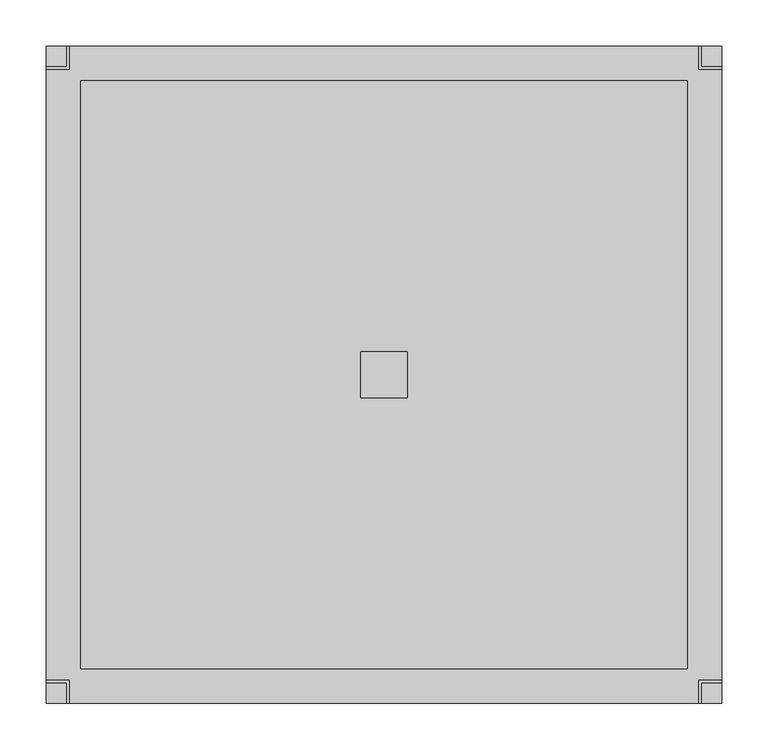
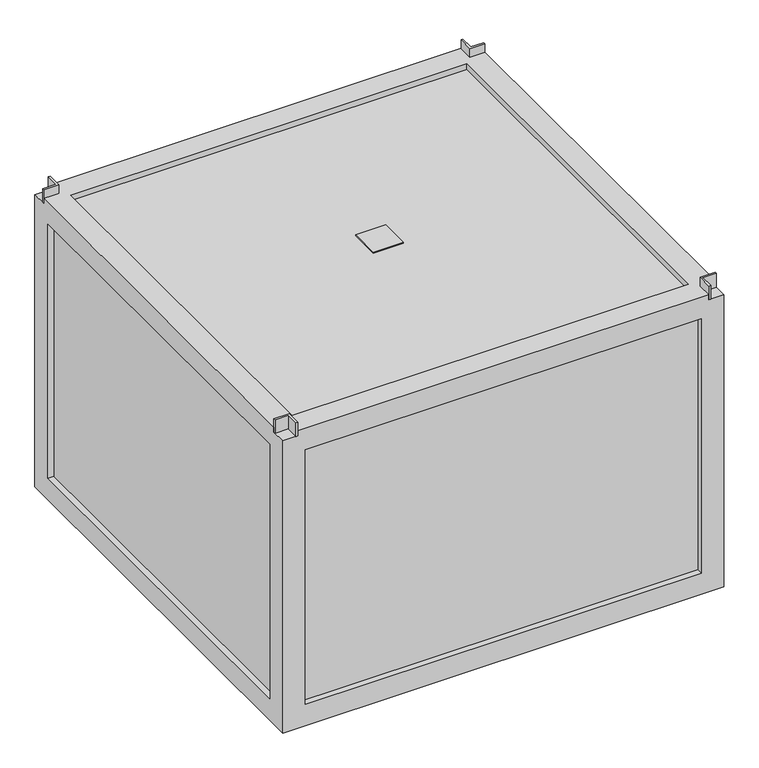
"""IFC4 building model written with IfcOpenShell, lengths in millimetres: proxy geometry, KORF_Вентилятор_UTR_WRH : UTR 50-30 WRH 28.4D (М)."""

from ifc_helpers import new_model, si_unit, frame, origin, place, context, project, spatial, polyline, outline, extrude, faceted_brep, source, transform, mapped, element, save


def mechanical_equipment_3d7fcfd4(model_context):
    return source(origin(), model_context, "Body", "SolidModel", [
        extrude(outline(polyline([(340.0, -25.0), (340.0, 25.0), (390.0, 25.0), (390.0, -25.0), (340.0, -25.0)])), frame((0.0, 0.0, 260.0), z_axis=(0.0, 0.0, 1.0), x_axis=(1.0, 0.0, 0.0)), (0.0, 0.0, 1.0), 2.0),
        extrude(outline(polyline([(25.0, 330.0), (0.0, 330.0), (0.0, 333.0), (22.0, 333.0), (22.0, 355.0), (25.0, 355.0), (25.0, 330.0)])), frame((0.0, 0.0, 251.0), z_axis=(0.0, 0.0, 1.0), x_axis=(1.0, 0.0, 0.0)), (0.0, 0.0, 1.0), 24.0),
        extrude(outline(polyline([(705.0, 330.0), (705.0, 355.0), (708.0, 355.0), (708.0, 333.0), (730.0, 333.0), (730.0, 330.0), (705.0, 330.0)])), frame((0.0, 0.0, 251.0), z_axis=(0.0, 0.0, 1.0), x_axis=(1.0, 0.0, 0.0)), (0.0, 0.0, 1.0), 24.0),
        extrude(outline(polyline([(25.0, -330.0), (25.0, -355.0), (22.0, -355.0), (22.0, -333.0), (0.0, -333.0), (0.0, -330.0), (25.0, -330.0)])), frame((0.0, 0.0, 251.0), z_axis=(0.0, 0.0, 1.0), x_axis=(1.0, 0.0, 0.0)), (0.0, 0.0, 1.0), 24.0),
        extrude(outline(polyline([(705.0, -330.0), (730.0, -330.0), (730.0, -333.0), (708.0, -333.0), (708.0, -355.0), (705.0, -355.0), (705.0, -330.0)])), frame((0.0, 0.0, 251.0), z_axis=(0.0, 0.0, 1.0), x_axis=(1.0, 0.0, 0.0)), (0.0, 0.0, 1.0), 24.0),
        extrude(outline(polyline([(720.0, 345.0), (720.0, -345.0), (10.0, -345.0), (10.0, 345.0), (720.0, 345.0)])), frame((0.0, 0.0, -250.0), z_axis=(0.0, 0.0, 1.0), x_axis=(1.0, 0.0, 0.0)), (0.0, 0.0, 1.0), 500.0),
        faceted_brep([(0.0, -354.9999993, -259.9999993), (730.0, -354.9999993, -259.9999993), (729.9999993, -354.9999993, 251.0), (705.0, -354.9999993, 251.0), (705.0, -354.9999993, 260.0), (25.0, -354.9999993, 259.9999993), (25.0, -354.9999993, 251.0), (0.0, -354.9999993, 251.0), (37.5, -354.9999993, -222.4999993), (37.5, -354.9999993, 222.5), (692.4999993, -354.9999993, 222.5), (692.4999993, -354.9999993, -222.4999993), (10.000001, -344.9999993, -249.9999993), (10.000001, -344.9999993, 249.9999993), (719.9999993, -344.9999993, 249.999999), (719.999999, -344.9999993, -249.9999993), (37.5, -344.9999993, 222.5), (37.5, -344.9999993, -222.4999993), (692.4999993, -344.9999993, -222.4999993), (692.4999993, -344.9999993, 222.5), (0.0, -317.4999993, 222.4999993), (10.000001, -317.4999993, 222.4999993), (10.000001, -317.4999993, -222.4999993), (0.0, -317.4999993, -222.4999993), (0.0, 354.9999993, -259.9999993), (730.0, 355.0, -259.9999993), (692.5, -317.5, -259.9999993), (692.5, 317.5, -259.9999993), (37.5, 317.5, -259.9999993), (37.5, -317.5, -259.9999993), (10.000001, 344.9999993, -249.9999993), (719.999999, 344.999999, -249.9999993), (692.5, 317.5, -249.9999993), (692.5, -317.5, -249.9999993), (37.5, -317.5, -249.9999993), (37.5, 317.5, -249.9999993), (10.000001, 317.4999993, -222.4999993), (0.0, 317.4999993, -222.4999993), (0.0, 354.9999993, 251.0), (25.0, 354.9999993, 251.0), (25.0, 354.9999993, 259.9999993), (705.0, 354.9999993, 260.0), (705.0, 354.9999993, 251.0), (729.9999993, 354.9999993, 251.0), (37.5, 354.9999993, 222.5), (37.5, 354.9999993, -222.4999993), (692.4999993, 354.9999993, -222.4999993), (692.4999993, 354.9999993, 222.5), (10.000001, 344.9999993, 249.9999993), (719.9999993, 344.9999993, 249.999999), (37.5, 344.9999993, -222.4999993), (37.5, 344.9999993, 222.5), (692.4999993, 344.9999993, 222.5), (692.4999993, 344.9999993, -222.4999993), (10.000001, 317.4999993, 222.4999993), (0.0, 317.4999993, 222.4999993), (0.0, -330.0, 251.0), (0.0, -330.0, 259.9999993), (0.0, 330.0, 259.9999993), (0.0, 330.0, 251.0), (705.0, -330.0, 259.9999993), (729.9999993, -330.0, 259.9999993), (729.9999993, 330.0, 259.9999993), (705.0, 330.0, 259.9999993), (25.0, 330.0, 259.9999993), (25.0, -330.0, 259.9999993), (692.4999993, 317.4999993, 259.9999993), (692.4999993, -317.4999993, 259.9999993), (37.5000007, -317.4999993, 259.9999993), (37.5, 317.4999993, 259.9999993), (37.5, -317.4999993, 249.9999993), (37.5, 317.4999993, 249.9999993), (692.4999993, -317.4999993, 249.9999993), (692.4999993, 317.4999993, 249.9999993), (729.9999993, 330.0, 251.0), (729.9999993, -330.0, 251.0), (729.9999993, -317.5, -222.5), (729.9999993, -317.5, 222.5), (729.9999993, 317.5, 222.5), (729.9999993, 317.5, -222.5), (719.9999993, -317.5, 222.5), (719.9999993, -317.5, -222.5), (719.9999993, 317.5, -222.4999993), (719.9999993, 317.5, 222.5), (25.0, 330.0, 251.0), (705.0, 330.0, 251.0), (705.0, -330.0, 251.0), (25.0, -330.0, 251.0)], [[[0, 1, 2, 3, 4, 5, 6, 7], [8, 9, 10, 11]], [[12, 13, 14, 15], [16, 17, 18, 19]], [[20, 21, 22, 23]], [[0, 24, 25, 1], [26, 27, 28, 29]], [[30, 12, 15, 31], [32, 33, 34, 35]], [[23, 22, 36, 37]], [[25, 24, 38, 39, 40, 41, 42, 43], [44, 45, 46, 47]], [[48, 30, 31, 49], [50, 51, 52, 53]], [[37, 36, 54, 55]], [[24, 0, 7, 56, 57, 58, 59, 38], [20, 23, 37, 55]], [[5, 4, 60, 61, 62, 63, 41, 40, 64, 58, 57, 65], [66, 67, 68, 69]], [[35, 34, 29, 28]], [[69, 68, 70, 71]], [[16, 9, 8, 17]], [[44, 51, 50, 45]], [[13, 48, 49, 14], [72, 73, 71, 70]], [[12, 30, 48, 13], [22, 21, 54, 36]], [[21, 20, 55, 54]], [[1, 25, 43, 74, 62, 61, 75, 2], [76, 77, 78, 79]], [[14, 49, 31, 15], [80, 81, 82, 83]], [[66, 73, 72, 67]], [[67, 72, 70, 68]], [[9, 16, 19, 10]], [[51, 44, 47, 52]], [[80, 83, 78, 77]], [[73, 66, 69, 71]], [[32, 27, 26, 33]], [[33, 26, 29, 34]], [[27, 32, 35, 28]], [[17, 8, 11, 18]], [[45, 50, 53, 46]], [[76, 79, 82, 81]], [[77, 76, 81, 80]], [[79, 78, 83, 82]], [[11, 10, 19, 18]], [[47, 46, 53, 52]], [[59, 84, 39, 38]], [[42, 85, 74, 43]], [[75, 86, 3, 2]], [[87, 56, 7, 6]], [[84, 59, 58, 64]], [[39, 84, 64, 40]], [[85, 42, 41, 63]], [[74, 85, 63, 62]], [[86, 75, 61, 60]], [[3, 86, 60, 4]], [[56, 87, 65, 57]], [[87, 6, 5, 65]]]),
    ])


if __name__ == "__main__":
    model = new_model("IFC4")
    model_context = context("Model", 3, world=origin())
    ifc_project = project(units=[si_unit("LENGTHUNIT", "METRE", prefix="MILLI")], contexts=[model_context])
    site = spatial("IfcSite", under=ifc_project)
    building = spatial("IfcBuilding", under=site)
    placement = place(None, origin())
    mechanical_equipment_shape = mechanical_equipment_3d7fcfd4(model_context)
    element("IfcBuildingElementProxy", 1, Name="KORF_Вентилятор_UTR_WRH : UTR 50-30 WRH 28.4D (М)", ObjectType="KORF_Вентилятор_UTR_WRH : UTR 50-30 WRH 28.4D (М)", at=placement, inside=building, context=model_context, shape_type="MappedRepresentation", body=[
        mapped(mechanical_equipment_shape, transform((0.0, 0.0, 0.0), x_axis=(1.0, 0.0, 0.0), y_axis=(0.0, 1.0, 0.0), z_axis=(0.0, 0.0, 1.0))),
    ])
    save(model, "model.ifc")
